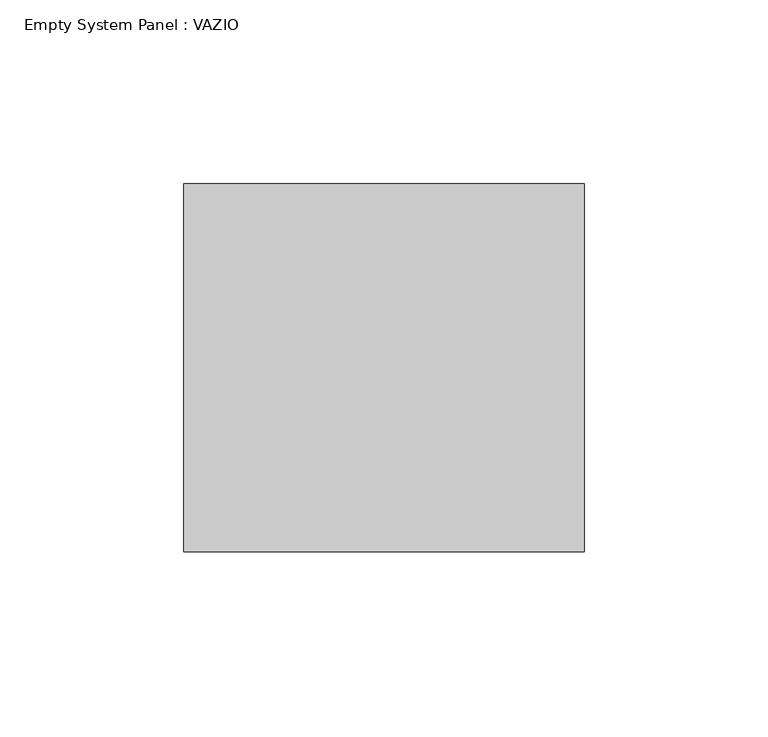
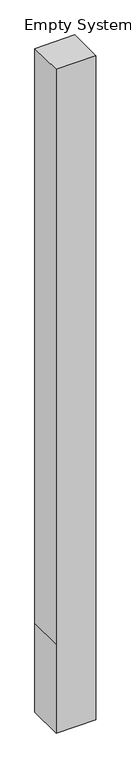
"""IFC4 building model written with IfcOpenShell, lengths in millimetres: plate geometry, Empty System Panel : VAZIO."""

from ifc_helpers import new_model, si_unit, point, frame, frame_2d, origin, place, context, project, spatial, polyline, circle_curve, trimmed, segment, composite_curve, outline, extrude, source, transform, mapped, element, save


def empty_system_panel_vazio_6bf3c55c(model_context):
    return source(origin(), model_context, "Body", "SweptSolid", [
        extrude(outline(composite_curve([segment(polyline([(0.0, -54.3902439), (0.0, 54.3902439), (256.7936467, 54.3902439), (1918.4964419, 54.3902439)]), True, "CONTINUOUS"), segment(trimmed(circle_curve(frame_2d((3146.6227404, -13.4654523)), 1229.9994311), [point((1918.4964419, 54.3902439))], [point((1917.3043268, -54.3902439))], True, "CARTESIAN"), True, "CONTINUOUS"), segment(polyline([(1917.3043268, -54.3902439), (256.7936467, -54.3902439), (0.0, -54.3902439)]), True, "CONTINUOUS")], self_intersect=False)), frame((0.0, -50.0, 0.0), z_axis=(0.0, 1.0, 0.0), x_axis=(0.0, 0.0, 1.0)), (0.0, 0.0, 1.0), 100.0),
    ])


if __name__ == "__main__":
    model = new_model("IFC4")
    model_context = context("Model", 3, world=origin())
    ifc_project = project(units=[si_unit("LENGTHUNIT", "METRE", prefix="MILLI")], contexts=[model_context])
    site = spatial("IfcSite", under=ifc_project)
    building = spatial("IfcBuilding", under=site)
    placement = place(None, origin())
    empty_system_panel_vazio_shape = empty_system_panel_vazio_6bf3c55c(model_context)
    element("IfcPlate", 1, ObjectType="Empty System Panel : VAZIO", at=placement, inside=building, context=model_context, shape_type="MappedRepresentation", body=[
        mapped(empty_system_panel_vazio_shape, transform((0.0, 0.0, 0.0), x_axis=(1.0, 0.0, 0.0), y_axis=(0.0, 1.0, 0.0), z_axis=(0.0, 0.0, 1.0))),
    ])
    save(model, "model.ifc")
